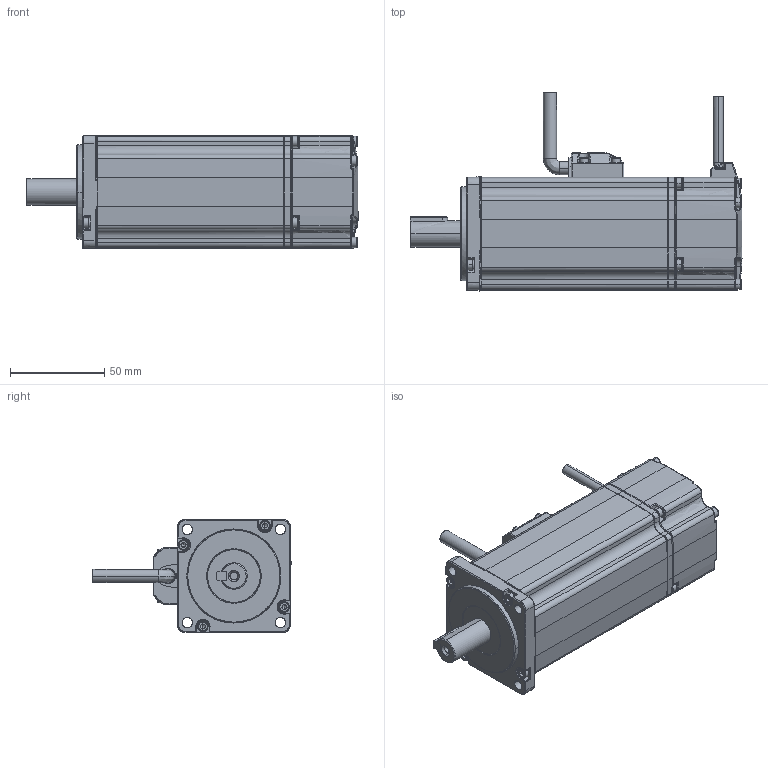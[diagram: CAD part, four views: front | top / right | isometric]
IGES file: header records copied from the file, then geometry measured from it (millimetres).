
Global section: file name: G:\00 graphics WIP\DX web info\3D drawings of EM3A\MXL-04A0630FA242\MXL-04A0630FA242.igs; native system: Rhinoceros ( May 22 2017 ); preprocessor: Trout Lake IGES 012 May 22 2017; author: Trio-MK; date: 200721.134154; units: millimetre
Bounding box: 176.5 x 105.45 x 60.09 mm (x, y, z)
Surface area: 50132.1 mm2 (no closed solid volume)
Topology: 0 solids, 0 shells, 914 faces, 9477 edges, 9434 vertices
Faces by surface type: bspline 914
